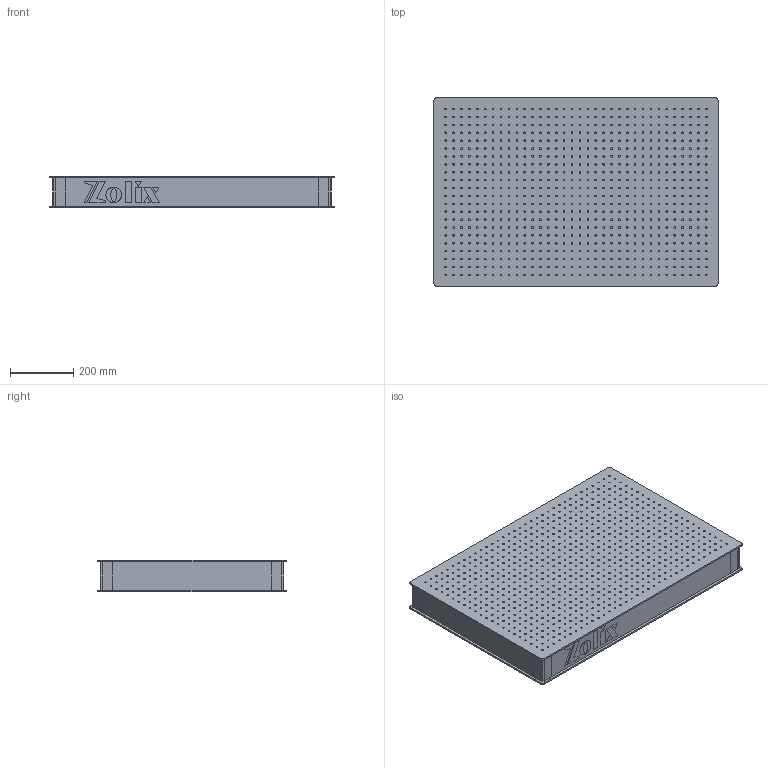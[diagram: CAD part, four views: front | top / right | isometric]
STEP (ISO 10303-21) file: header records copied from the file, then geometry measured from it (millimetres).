
FILE_DESCRIPTION (( 'STEP AP203' ), '1' );
FILE_NAME ('NTBR69-100 铁磁不锈钢面包板 AP203.STEP', '2025-02-13T02:52:51', ( '13701099104@139.COM' ), ( '' ), 'SwSTEP 2.0', 'SolidWorks 2021', '' );
FILE_SCHEMA (( 'CONFIG_CONTROL_DESIGN' ));
Length unit declared in the file: millimetre
Products named in the file (1): NTBR69-100 铁磁不锈钢面包板 AP203
Bounding box: 900 x 600 x 100 mm (x, y, z)
Surface area: 2521301.1 mm2 (no closed solid volume)
Topology: 0 solids, 30 shells, 1578 faces, 4948 edges, 3402 vertices
Faces by surface type: cylinder 1508, plane 70
Entity records: 59810 total; most frequent: DIRECTION 11122, CARTESIAN_POINT 9929, ORIENTED_EDGE 9520, EDGE_CURVE 4948, AXIS2_PLACEMENT_3D 4595, VERTEX_POINT 3402, EDGE_LOOP 3074, CIRCLE 3016
